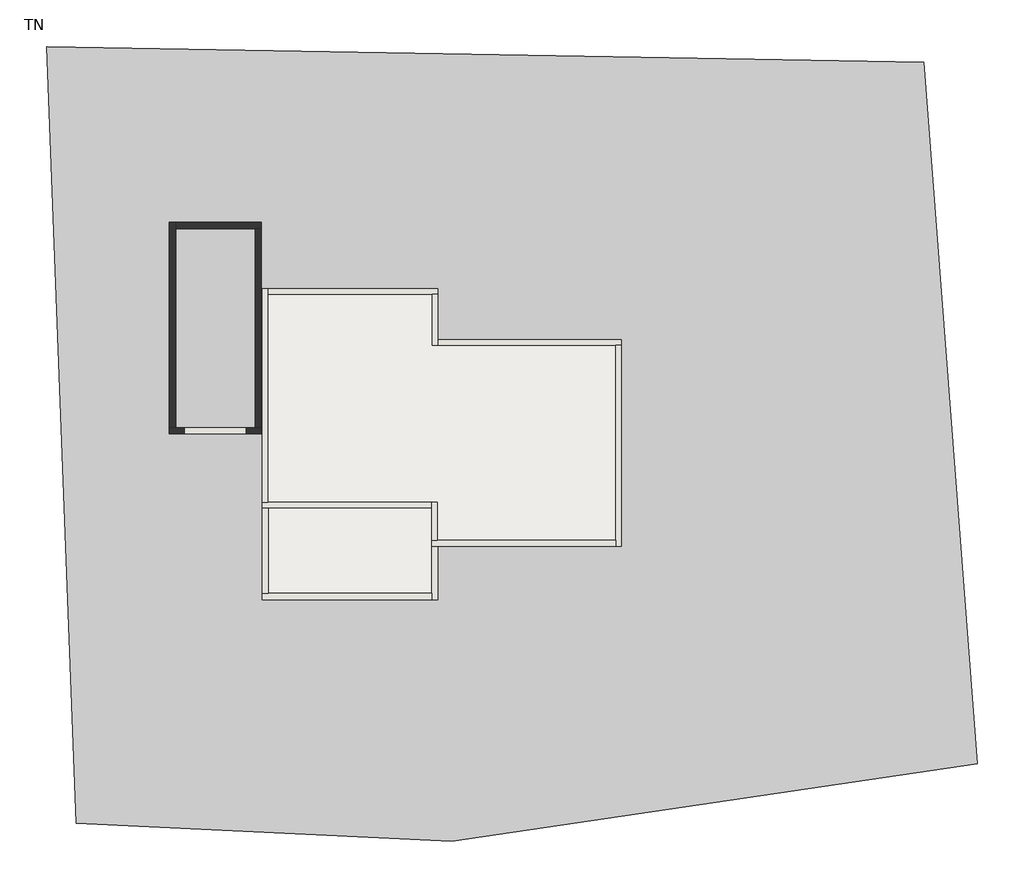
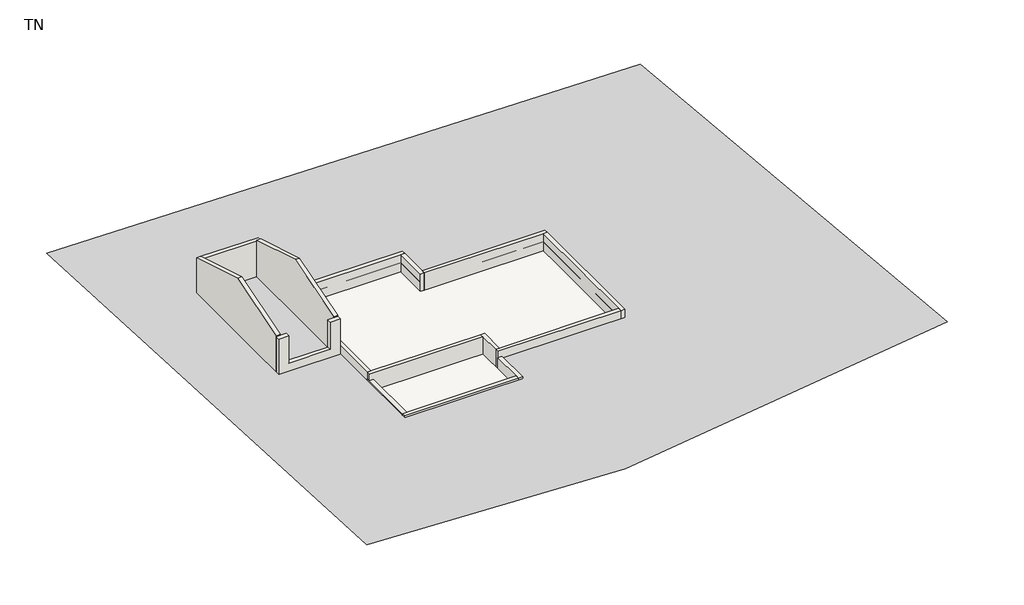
# One storey, incomplete: 15 walls, 1 proxy, 1 slab.
"""IFC4 building model written with IfcOpenShell, lengths in millimetres."""

from ifc_helpers import new_model, si_unit, frame, origin, place, context, project, spatial, polyline, outline, extrude, faceted_brep, triangles, element, save

model = new_model("IFC4")

# Units and contexts
model_context = context("Model", 3, world=origin())
ifc_project = project(units=[si_unit("LENGTHUNIT", "METRE", prefix="MILLI")], contexts=[model_context])

# Site, building, storey
site = spatial("IfcSite", under=ifc_project)
building = spatial("IfcBuilding", under=site)
storey = spatial("IfcBuildingStorey", under=building, Name="TN", Elevation=-1070.0)

# Proxy
placement = place(None, origin())
element("IfcBuildingElementProxy", 1, Name="Building Element Proxy", at=placement, inside=storey, context=model_context, shape_type="Tessellation", body=[
    triangles([(-26474.6351807, 18503.5310303, -500.0000038), (-25306.2181274, -11986.5590515, -500.0000038), (-10561.9227539, -12709.863739, -500.0000038), (10080.0893738, -9649.7272705, -500.0000038), (7965.8137756, 17891.5032715, -500.0000038), (-11328.2922546, 8767.3799652, -500.0000038), (-11328.2922546, 6767.37995, -500.0000038), (-4128.2927811, 6767.37995, -500.0000038), (-4128.2927811, -892.6202248, -500.0000038), (-11348.2921967, -892.6202248, -500.0000038), (-11348.2921967, -2972.6202988, -500.0000038), (-15526.0081238, -2972.6202988, -500.0000038), (-17768.2921875, -2972.6202988, -500.0000038), (-17768.2921875, 497.3797786, -500.0000038), (-17788.2921295, 497.3797786, -500.0000038), (-17788.2921295, 1464.9376167, -500.0000038), (-17788.2921295, 8767.3799652, -500.0000038)], [[2, 15, 16], [15, 2, 13], [15, 13, 14], [3, 12, 13], [13, 2, 3], [1, 17, 6], [17, 1, 16], [16, 1, 2], [11, 3, 9], [3, 11, 12], [9, 4, 8], [4, 9, 3], [11, 9, 10], [8, 5, 6], [8, 6, 7], [4, 5, 8], [6, 5, 1]], closed=False),
])

# Slab
element("IfcSlab", 2, ObjectType="Terre-plein vs", at=placement, inside=storey, context=model_context, shape_type="SweptSolid", body=[
    extrude(outline(polyline([(-11328.2926959, 8767.3797732), (-11328.2926959, 6767.3797732), (-4128.2926959, 6767.3797732), (-4128.2926959, -892.6202268), (-11348.2926959, -892.6202268), (-11348.2926959, -2972.6202268), (-17768.2926959, -2972.6202268), (-17768.2926959, 497.3797732), (-17788.2926959, 497.3797732), (-17788.2926959, 8767.3797732), (-11328.2926959, 8767.3797732)])), frame((0.0, 0.0, -1080.0), z_axis=(0.0, 0.0, 1.0), x_axis=(1.0, 0.0, 0.0)), (0.0, 0.0, 1.0), 10.0),
])

# Walls
element("IfcWall", 3, ObjectType="parpaing 20 + enduit 1 face 2 cm", at=placement, inside=storey, context=model_context, shape_type="Brep", body=[
    faceted_brep([(-17788.2926959, 607.3797732, -1070.0), (-17788.2926959, 8767.3797732, -1070.0), (-17788.2926959, 8987.3797732, -1070.0), (-17788.2926959, 8987.3797732, 0.0), (-17788.2926959, 8767.3797732, 0.0), (-17788.2926959, 607.3797732, 0.0), (-18008.2926959, 607.3797732, -1070.0), (-18008.2926959, 607.3797732, -390.0), (-18008.2926959, 607.3797732, 0.0), (-18008.2926959, 8987.3797732, 0.0), (-18008.2926959, 8987.3797732, -1070.0)], [[[0, 1, 2, 3, 4, 5]], [[6, 7, 8, 9, 10]], [[2, 1, 0, 6, 10]], [[5, 4, 3, 9, 8]], [[3, 2, 10, 9]], [[0, 5, 8, 7, 6]]]),
])
element("IfcWall", 4, ObjectType="parpaing 20 + enduit 1 face 2 cm", at=placement, inside=storey, context=model_context, shape_type="Brep", body=[
    faceted_brep([(-17788.2926959, 8767.3797732, -1070.0), (-11328.2926959, 8767.3797732, -1070.0), (-11108.2926959, 8767.3797732, -1070.0), (-11108.2926959, 8767.3797732, 0.0), (-11328.2926959, 8767.3797732, 0.0), (-17788.2926959, 8767.3797732, 0.0), (-17788.2926959, 8987.3797732, -1070.0), (-17788.2926959, 8987.3797732, 0.0), (-11108.2926959, 8987.3797732, 0.0), (-11108.2926959, 8987.3797732, -1070.0)], [[[0, 1, 2, 3, 4, 5]], [[6, 7, 8, 9]], [[2, 1, 0, 6, 9]], [[5, 4, 3, 8, 7]], [[0, 5, 7, 6]], [[3, 2, 9, 8]]]),
])
element("IfcWall", 5, ObjectType="parpaing 20 + enduit 1 face 2 cm", at=placement, inside=storey, context=model_context, shape_type="Brep", body=[
    faceted_brep([(-11328.2926959, 8767.3797732, -1070.0), (-11328.2926959, 6767.3797732, -1070.0), (-11328.2926959, 6767.3797732, 0.0), (-11328.2926959, 8767.3797732, 0.0), (-11108.2926959, 8767.3797732, -1070.0), (-11108.2926959, 8767.3797732, 0.0), (-11108.2926959, 6987.3797732, 0.0), (-11108.2926959, 6767.3797732, 0.0), (-11108.2926959, 6767.3797732, -1070.0), (-11108.2926959, 6987.3797732, -1070.0)], [[[0, 1, 2, 3]], [[4, 5, 6, 7, 8, 9]], [[1, 0, 4, 9, 8]], [[3, 2, 7, 6, 5]], [[0, 3, 5, 4]], [[2, 1, 8, 7]]]),
])
element("IfcWall", 6, ObjectType="parpaing 20 + enduit 1 face 2 cm", at=placement, inside=storey, context=model_context, shape_type="Brep", body=[
    faceted_brep([(-11108.2926959, 6767.3797732, -1070.0), (-4128.2926959, 6767.3797732, -1070.0), (-3908.2926959, 6767.3797732, -1070.0), (-3908.2926959, 6767.3797732, 0.0), (-4128.2926959, 6767.3797732, 0.0), (-11108.2926959, 6767.3797732, 0.0), (-11108.2926959, 6987.3797732, -1070.0), (-11108.2926959, 6987.3797732, 0.0), (-3908.2926959, 6987.3797732, 0.0), (-3908.2926959, 6987.3797732, -1070.0)], [[[0, 1, 2, 3, 4, 5]], [[6, 7, 8, 9]], [[2, 1, 0, 6, 9]], [[5, 4, 3, 8, 7]], [[0, 5, 7, 6]], [[3, 2, 9, 8]]]),
])
element("IfcWall", 7, ObjectType="parpaing 20 + enduit 1 face 2 cm", at=placement, inside=storey, context=model_context, shape_type="Brep", body=[
    faceted_brep([(-4128.2926959, 6767.3797732, -1070.0), (-4128.2926959, -892.6202268, -1070.0), (-4128.2926959, -1112.6202268, -1070.0), (-4128.2926959, -1112.6202268, 0.0), (-4128.2926959, -892.6202268, 0.0), (-4128.2926959, 6767.3797732, 0.0), (-3908.2926959, 6767.3797732, -1070.0), (-3908.2926959, 6767.3797732, 0.0), (-3908.2926959, -1112.6202268, 0.0), (-3908.2926959, -1112.6202268, -1070.0)], [[[0, 1, 2, 3, 4, 5]], [[6, 7, 8, 9]], [[2, 1, 0, 6, 9]], [[5, 4, 3, 8, 7]], [[0, 5, 7, 6]], [[3, 2, 9, 8]]]),
])
element("IfcWall", 8, ObjectType="parpaing 20 + enduit 1 face 2 cm", at=placement, inside=storey, context=model_context, shape_type="Brep", body=[
    faceted_brep([(-4128.2926959, -892.6202268, -1070.0), (-11128.2926959, -892.6202268, -1070.0), (-11348.2926959, -892.6202268, -1070.0), (-11348.2926959, -892.6202268, 0.0), (-11128.2926959, -892.6202268, 0.0), (-4128.2926959, -892.6202268, 0.0), (-4128.2926959, -1112.6202268, -1070.0), (-4128.2926959, -1112.6202268, 0.0), (-11348.2926959, -1112.6202268, 0.0), (-11348.2926959, -1112.6202268, -390.0), (-11348.2926959, -1112.6202268, -1070.0), (-11108.2926959, -1112.6202268, -1070.0)], [[[0, 1, 2, 3, 4, 5]], [[6, 7, 8, 9, 10, 11]], [[2, 1, 0, 6, 11, 10]], [[5, 4, 3, 8, 7]], [[0, 5, 7, 6]], [[2, 10, 9, 8, 3]]]),
])
element("IfcWall", 9, ObjectType="parpaing 20 + enduit 1 face 2 cm", at=placement, inside=storey, context=model_context, shape_type="Brep", body=[
    faceted_brep([(-11128.2926959, -892.6202268, -1070.0), (-11128.2926959, 607.3797732, -1070.0), (-11128.2926959, 607.3797732, 0.0), (-11128.2926959, -892.6202268, 0.0), (-11348.2926959, -892.6202268, -1070.0), (-11348.2926959, -892.6202268, 0.0), (-11348.2926959, 387.3797732, 0.0), (-11348.2926959, 607.3797732, 0.0), (-11348.2926959, 607.3797732, -1070.0), (-11348.2926959, 387.3797732, -1070.0)], [[[0, 1, 2, 3]], [[4, 5, 6, 7, 8, 9]], [[1, 0, 4, 9, 8]], [[3, 2, 7, 6, 5]], [[0, 3, 5, 4]], [[2, 1, 8, 7]]]),
])
element("IfcWall", 10, ObjectType="parpaing 20 + enduit 1 face 2 cm", at=placement, inside=storey, context=model_context, shape_type="Brep", body=[
    faceted_brep([(-11348.2926959, 607.3797732, -1070.0), (-17768.2926959, 607.3797732, -1070.0), (-17768.2926959, 607.3797732, -390.0), (-18008.2926959, 607.3797732, -390.0), (-18008.2926959, 607.3797732, 0.0), (-17788.2926959, 607.3797732, 0.0), (-11348.2926959, 607.3797732, 0.0), (-11348.2926959, 387.3797732, -1070.0), (-11348.2926959, 387.3797732, 0.0), (-18008.2926959, 387.3797732, 0.0), (-18008.2926959, 387.3797732, -390.0), (-17768.2926959, 387.3797732, -390.0), (-17768.2926959, 387.3797732, -1070.0)], [[[0, 1, 2, 3, 4, 5, 6]], [[7, 8, 9, 10, 11, 12]], [[1, 0, 7, 12]], [[6, 5, 4, 9, 8]], [[0, 6, 8, 7]], [[10, 3, 2, 11]], [[2, 1, 12, 11]], [[4, 3, 10, 9]]]),
])
element("IfcWall", 11, ObjectType="parpaing 20 + enduit 2 faces 2 cm", at=placement, inside=storey, context=model_context, shape_type="Brep", body=[
    faceted_brep([(-11348.2926959, -1112.6202268, -1070.0), (-11348.2926959, -2972.6202268, -1070.0), (-11348.2926959, -3212.6202268, -1070.0), (-11348.2926959, -3212.6202268, -390.0), (-11348.2926959, -2972.6202268, -390.0), (-11348.2926959, -1112.6202268, -390.0), (-11108.2926959, -1112.6202268, -1070.0), (-11108.2926959, -1112.6202268, -390.0), (-11108.2926959, -3212.6202268, -390.0), (-11108.2926959, -3212.6202268, -1070.0)], [[[0, 1, 2, 3, 4, 5]], [[6, 7, 8, 9]], [[2, 1, 0, 6, 9]], [[5, 4, 3, 8, 7]], [[3, 2, 9, 8]], [[0, 5, 7, 6]]]),
])
element("IfcWall", 12, ObjectType="parpaing 20 + enduit 2 faces 2 cm", at=placement, inside=storey, context=model_context, shape_type="Brep", body=[
    faceted_brep([(-11348.2926959, -2972.6202268, -1070.0), (-17768.2926959, -2972.6202268, -1070.0), (-18008.2926959, -2972.6202268, -1070.0), (-18008.2926959, -2972.6202268, -390.0), (-17768.2926959, -2972.6202268, -390.0), (-11348.2926959, -2972.6202268, -390.0), (-11348.2926959, -3212.6202268, -1070.0), (-11348.2926959, -3212.6202268, -390.0), (-18008.2926959, -3212.6202268, -390.0), (-18008.2926959, -3212.6202268, -1070.0)], [[[0, 1, 2, 3, 4, 5]], [[6, 7, 8, 9]], [[2, 1, 0, 6, 9]], [[5, 4, 3, 8, 7]], [[0, 5, 7, 6]], [[3, 2, 9, 8]]]),
])
element("IfcWall", 13, ObjectType="parpaing 20 + enduit 2 faces 2 cm", at=placement, inside=storey, context=model_context, shape_type="Brep", body=[
    faceted_brep([(-17768.2926959, -2972.6202268, -1070.0), (-17768.2926959, 387.3797732, -1070.0), (-17768.2926959, 607.3797732, -1070.0), (-17768.2926959, 607.3797732, -390.0), (-17768.2926959, 387.3797732, -390.0), (-17768.2926959, -2972.6202268, -390.0), (-18008.2926959, -2972.6202268, -1070.0), (-18008.2926959, -2972.6202268, -390.0), (-18008.2926959, 387.3797732, -390.0), (-18008.2926959, 607.3797732, -390.0), (-18008.2926959, 607.3797732, -1070.0), (-17788.2926959, 607.3797732, -1070.0)], [[[0, 1, 2, 3, 4, 5]], [[6, 7, 8, 9, 10]], [[2, 1, 0, 6, 10, 11]], [[5, 4, 3, 9, 8, 7]], [[0, 5, 7, 6]], [[3, 2, 11, 10, 9]]]),
])
element("IfcWall", 14, ObjectType="parpaing 20 + enduit 2 faces 2 cm", at=placement, inside=storey, context=model_context, shape_type="Brep", body=[
    faceted_brep([(-18048.2926959, 3537.3797732, -1070.0), (-18288.2926959, 3537.3797732, -1070.0), (-21408.2926959, 3537.3797732, -1070.0), (-21648.2926959, 3537.3797732, -1070.0), (-21648.2926959, 3537.3797732, 1700.0), (-21063.2926959, 3537.3797732, 1700.0), (-21063.2926959, 3537.3797732, 0.0), (-18633.2926959, 3537.3797732, 0.0), (-18633.2926959, 3537.3797732, 1700.0), (-18048.2926959, 3537.3797732, 1700.0), (-21648.2926959, 3297.3797732, -1070.0), (-18048.2926959, 3297.3797732, -1070.0), (-18048.2926959, 3297.3797732, 1700.0), (-18633.2926959, 3297.3797732, 1700.0), (-18633.2926959, 3297.3797732, 0.0), (-21063.2926959, 3297.3797732, 0.0), (-21063.2926959, 3297.3797732, 1700.0), (-21648.2926959, 3297.3797732, 1700.0)], [[[0, 1, 2, 3, 4, 5, 6, 7, 8, 9]], [[10, 11, 12, 13, 14, 15, 16, 17]], [[3, 2, 1, 0, 11, 10]], [[4, 17, 16, 5]], [[12, 9, 8, 13]], [[4, 3, 10, 17]], [[14, 7, 6, 15]], [[7, 14, 13, 8]], [[15, 6, 5, 16]], [[0, 9, 12, 11]]]),
])
element("IfcWall", 15, ObjectType="parpaing 20 + enduit 2 faces 2 cm", at=placement, inside=storey, context=model_context, shape_type="Brep", body=[
    faceted_brep([(-21408.2926959, 3537.3797732, -1070.0), (-21408.2926959, 11357.3797732, -1070.0), (-21408.2926959, 11597.3797732, -1070.0), (-21408.2926959, 11597.3797732, 1700.0), (-21408.2926959, 7447.3797732, 2945.0), (-21408.2926959, 3537.3797732, 1772.0), (-21648.2926959, 3537.3797732, -1070.0), (-21648.2926959, 3537.3797732, 1700.0), (-21648.2926959, 3537.3797732, 1772.0), (-21648.2926959, 7447.3797732, 2945.0), (-21648.2926959, 11597.3797732, 1700.0), (-21648.2926959, 11597.3797732, -1070.0)], [[[0, 1, 2, 3, 4, 5]], [[6, 7, 8, 9, 10, 11]], [[2, 1, 0, 6, 11]], [[0, 5, 8, 7, 6]], [[3, 2, 11, 10]], [[5, 4, 9, 8]], [[4, 3, 10, 9]]]),
])
element("IfcWall", 16, ObjectType="parpaing 20 + enduit 2 faces 2 cm", at=placement, inside=storey, context=model_context, shape_type="Brep", body=[
    faceted_brep([(-21408.2926959, 11357.3797732, -1070.0), (-18288.2926959, 11357.3797732, -1070.0), (-18048.2926959, 11357.3797732, -1070.0), (-18048.2926959, 11357.3797732, 1700.0), (-21408.2926959, 11357.3797732, 1700.0), (-21408.2926959, 11597.3797732, -1070.0), (-21408.2926959, 11597.3797732, 1700.0), (-18048.2926959, 11597.3797732, 1700.0), (-18048.2926959, 11597.3797732, -1070.0)], [[[0, 1, 2, 3, 4]], [[5, 6, 7, 8]], [[2, 1, 0, 5, 8]], [[4, 3, 7, 6]], [[0, 4, 6, 5]], [[3, 2, 8, 7]]]),
])
element("IfcWall", 17, ObjectType="parpaing 20 + enduit 2 faces 2 cm", at=placement, inside=storey, context=model_context, shape_type="Brep", body=[
    faceted_brep([(-18288.2926959, 11357.3797732, -1070.0), (-18288.2926959, 3537.3797732, -1070.0), (-18288.2926959, 3537.3797732, 1772.0), (-18288.2926959, 7447.3797732, 2945.0), (-18288.2926959, 11357.3797732, 1772.0), (-18048.2926959, 11357.3797732, -1070.0), (-18048.2926959, 11357.3797732, 1700.0), (-18048.2926959, 11357.3797732, 1772.0), (-18048.2926959, 7447.3797732, 2945.0), (-18048.2926959, 3537.3797732, 1772.0), (-18048.2926959, 3537.3797732, 1700.0), (-18048.2926959, 3537.3797732, -1070.0)], [[[0, 1, 2, 3, 4]], [[5, 6, 7, 8, 9, 10, 11]], [[1, 0, 5, 11]], [[2, 1, 11, 10, 9]], [[0, 4, 7, 6, 5]], [[4, 3, 8, 7]], [[3, 2, 9, 8]]]),
])

save(model, "model.ifc")
